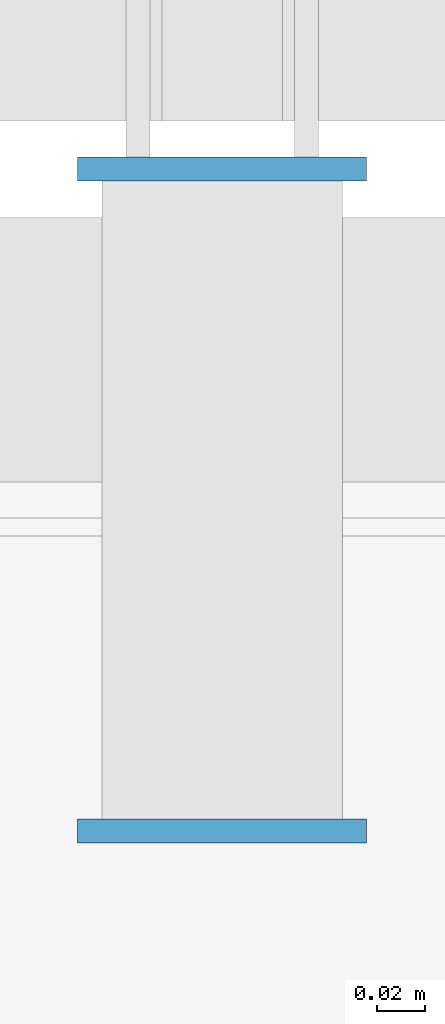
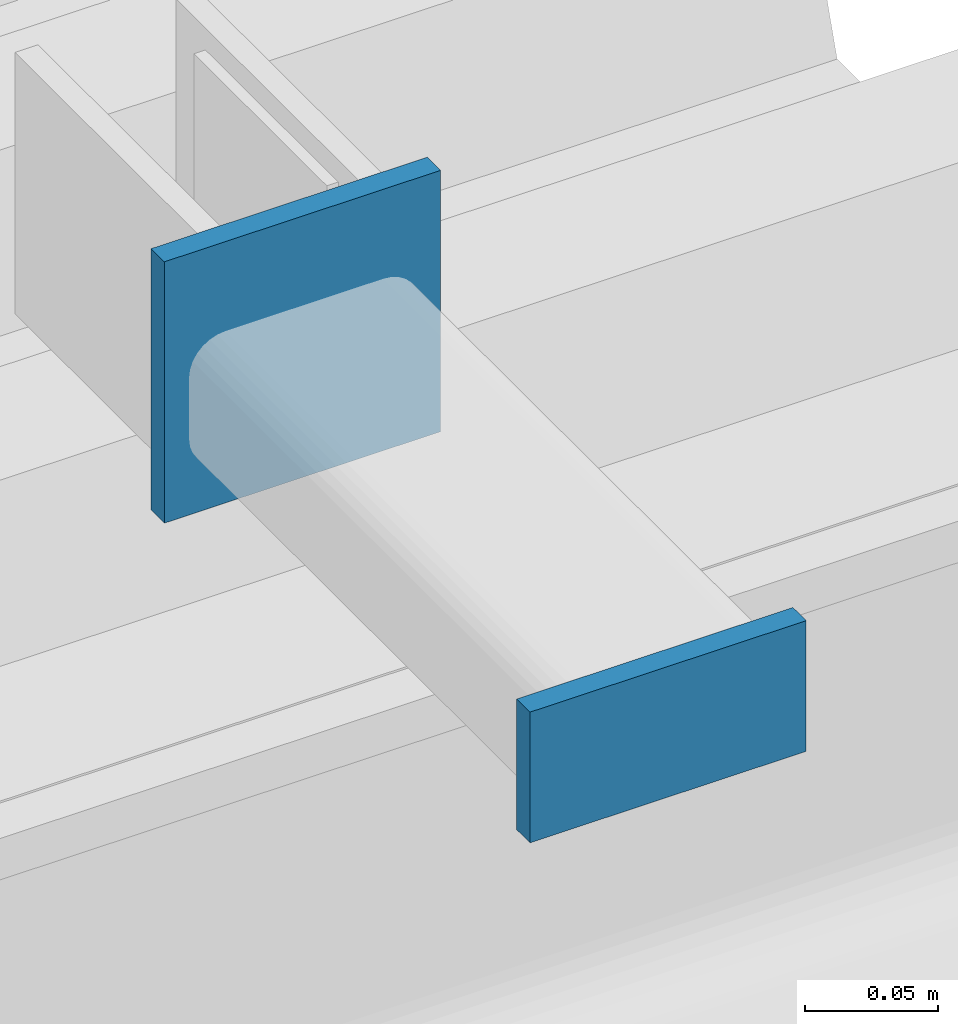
# One storey, part 3 of 34: 2 columns.
"""IFC2X3 building model written with IfcOpenShell, lengths in millimetres."""

from ifc_helpers import new_model, entity, si_unit, converted_unit, derived_unit, direction, frame, origin_with_axes, origin_2d_with_axis, place, context, subcontext, project, spatial, rectangle, extrude, material, type_object, element, save


model = new_model("IFC2X3")

# Units and contexts
model_context = context("Model", 3, precision=0.01, world=frame((0.0, 4.29681676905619e-09, 0.0)), true_north=direction((4.01073788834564e-13, 1.0)))
plan_context = context("Plan", 3, precision=0.01, world=frame((0.0, 4.29681676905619e-09, 0.0)), true_north=direction((4.01073788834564e-13, 1.0)))
body_context = subcontext(model_context, "Body", "Model", "MODEL_VIEW")
ifc_project = project(units=[converted_unit("PLANEANGLEUNIT", "DEGREE", entity("IfcPositiveLengthMeasure", 0.0174532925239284), si_unit("PLANEANGLEUNIT", "RADIAN"), dimensions=[0, 0, 0, 0, 0, 0, 0]), si_unit("AREAUNIT", "SQUARE_METRE"), si_unit("LENGTHUNIT", "METRE", prefix="MILLI"), si_unit("MASSUNIT", "GRAM", prefix="KILO"), si_unit("POWERUNIT", "WATT"), si_unit("PRESSUREUNIT", "PASCAL"), si_unit("FORCEUNIT", "NEWTON", prefix="KILO"), si_unit("ELECTRICVOLTAGEUNIT", "VOLT"), si_unit("ELECTRICCURRENTUNIT", "AMPERE"), si_unit("THERMODYNAMICTEMPERATUREUNIT", "DEGREE_CELSIUS"), si_unit("TIMEUNIT", "SECOND"), si_unit("VOLUMEUNIT", "CUBIC_METRE"), derived_unit("LINEARVELOCITYUNIT", [(si_unit("LENGTHUNIT", "METRE"), 1), (si_unit("TIMEUNIT", "SECOND"), -1)]), derived_unit("VOLUMETRICFLOWRATEUNIT", [(si_unit("VOLUMEUNIT", "CUBIC_METRE"), 1), (si_unit("TIMEUNIT", "SECOND"), -1)]), derived_unit("THERMALTRANSMITTANCEUNIT", [(si_unit("POWERUNIT", "WATT"), 1), (si_unit("THERMODYNAMICTEMPERATUREUNIT", "KELVIN"), -1), (si_unit("AREAUNIT", "SQUARE_METRE"), -1)]), derived_unit("SOUNDPRESSUREUNIT", [(si_unit("PRESSUREUNIT", "PASCAL"), 1)])], contexts=[model_context, plan_context])

# Site, building, storey
site_placement = place(None, frame((0.0, -4.29681676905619e-09, 0.0), z_axis=(0.0, 0.0, 1.0), x_axis=(1.0, 0.0, 0.0)))
site = spatial("IfcSite", under=ifc_project, at=site_placement, Name="Gardermoen", CompositionType="ELEMENT")
building_placement = place(site_placement, frame((0.0, 4.29681676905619e-09, 0.0), z_axis=(0.0, 0.0, 1.0), x_axis=(1.0, 0.0, 0.0)))
building = spatial("IfcBuilding", under=site, at=building_placement, Name="TH", CompositionType="ELEMENT")
storey_placement = place(building_placement, origin_with_axes())
storey = spatial("IfcBuildingStorey", under=building, at=storey_placement, Name="F", CompositionType="ELEMENT", Elevation=0.0)

# Columns
ifc_material = material(Name="STEEL/S355")
column_type = type_object("IfcColumnType", Name="PL10*120", PredefinedType="NOTDEFINED")
column_1_placement = place(storey_placement, frame((910000.000000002, 484829.999999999, 213560.00092537), z_axis=(0.0, 0.0, 1.0), x_axis=(1.0, 0.0, 0.0)))
element("IfcColumn", 1, at=column_1_placement, inside=storey, type_object=column_type, material=ifc_material, Name="STÅLSPESIAL", ObjectType="PL10*120", context=body_context, shape_type="SweptSolid", body=[
    extrude(rectangle(XDim=10.0, YDim=120.0, at=origin_2d_with_axis()), frame((0.0, 0.0, 119.999999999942), z_axis=(-3.99999553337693e-08, 0.0, -0.999999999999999), x_axis=(0.0, 1.0, 0.0)), (0.0, 0.0, 1.0), 120.0),
])
column_2_placement = place(storey_placement, frame((910000.000000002, 484554.999691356, 213580.00092537), z_axis=(0.0, 0.0, 1.0), x_axis=(1.0, 0.0, 0.0)))
element("IfcColumn", 2, at=column_2_placement, inside=storey, type_object=column_type, material=ifc_material, Name="STÅLSPESIAL", ObjectType="PL10*120", context=body_context, shape_type="SweptSolid", body=[
    extrude(rectangle(XDim=10.0, YDim=120.0, at=origin_2d_with_axis()), frame((0.0, 0.0, 60.0000000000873), z_axis=(-3.99999553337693e-08, 0.0, -0.999999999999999), x_axis=(0.0, 1.0, 0.0)), (0.0, 0.0, 1.0), 60.0),
])

save(model, "model.ifc")
